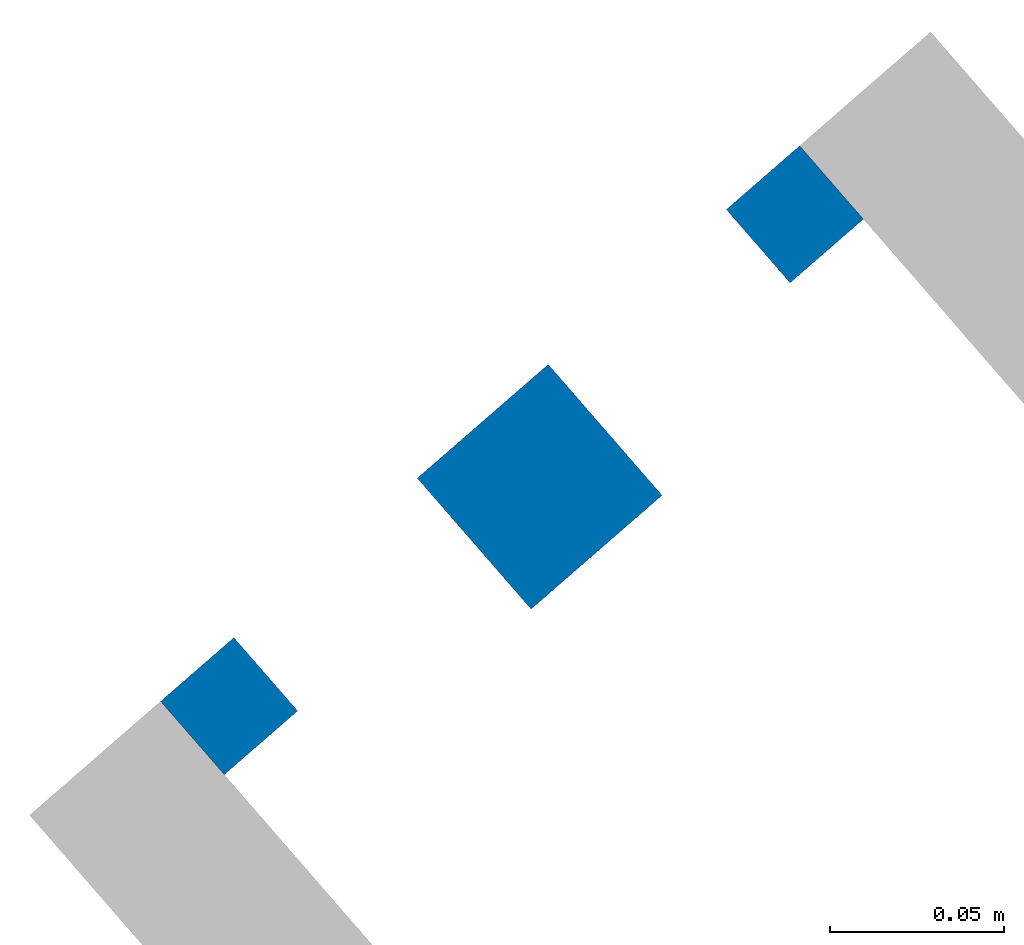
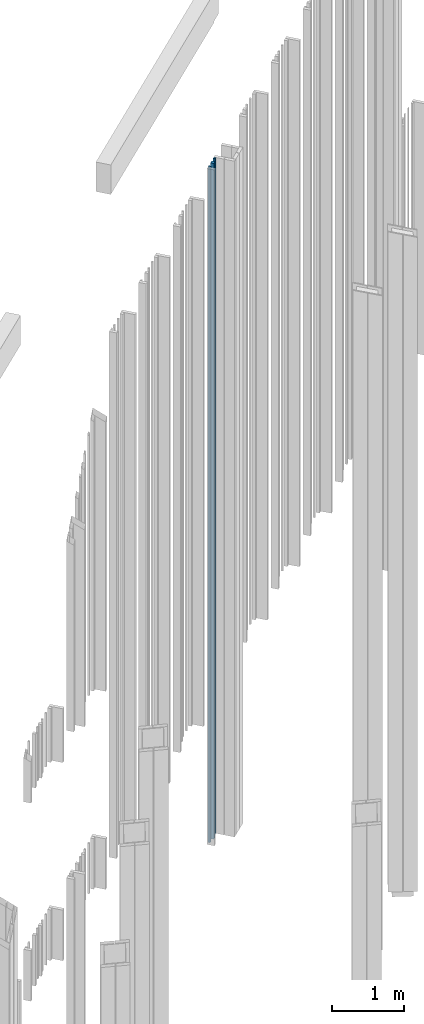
# One storey, part 245 of 390: 3 walls.
"""IFC2X3 building model written with IfcOpenShell, lengths in millimetres."""

from ifc_helpers import new_model, entity, si_unit, converted_unit, derived_unit, money_unit, direction, frame, origin_with_axes, place, context, subcontext, project, spatial, faceted_brep, material, type_object, element, save


model = new_model("IFC2X3")

# Units and contexts
model_context = context("Model", 3, precision=1e-05, world=origin_with_axes(), true_north=direction((0.0, 1.0)))
body_context = subcontext(model_context, "Body", "Model", "MODEL_VIEW")
ifc_project = project(units=[si_unit("LENGTHUNIT", "METRE", prefix="MILLI"), si_unit("AREAUNIT", "SQUARE_METRE"), si_unit("VOLUMEUNIT", "CUBIC_METRE"), converted_unit("PLANEANGLEUNIT", "DEGREE", entity("IfcPlaneAngleMeasure", 0.0174532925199), si_unit("PLANEANGLEUNIT", "RADIAN"), dimensions=[0, 0, 0, 0, 0, 0, 0]), si_unit("SOLIDANGLEUNIT", "STERADIAN"), money_unit("EUR"), converted_unit("TIMEUNIT", "Year", entity("IfcTimeMeasure", 31556926.0), si_unit("TIMEUNIT", "SECOND"), dimensions=[0, 0, 1, 0, 0, 0, 0]), si_unit("MASSUNIT", "GRAM", prefix="KILO"), si_unit("THERMODYNAMICTEMPERATUREUNIT", "DEGREE_CELSIUS"), si_unit("LUMINOUSINTENSITYUNIT", "LUMEN"), si_unit("ENERGYUNIT", "JOULE", prefix="MEGA"), derived_unit("THERMALCONDUCTANCEUNIT", [(si_unit("POWERUNIT", "WATT"), 1), (si_unit("LENGTHUNIT", "METRE"), -1), (si_unit("THERMODYNAMICTEMPERATUREUNIT", "KELVIN"), -1)]), derived_unit("SPECIFICHEATCAPACITYUNIT", [(si_unit("ENERGYUNIT", "JOULE"), 1), (si_unit("MASSUNIT", "GRAM", prefix="KILO"), -1), (si_unit("THERMODYNAMICTEMPERATUREUNIT", "KELVIN"), -1)]), derived_unit("MASSDENSITYUNIT", [(si_unit("MASSUNIT", "GRAM", prefix="KILO"), 1), (si_unit("VOLUMEUNIT", "CUBIC_METRE"), -1)])], contexts=[model_context])

# Site, building, storey
site_placement = place(None, origin_with_axes())
site = spatial("IfcSite", under=ifc_project, at=site_placement, Name="Site", CompositionType="ELEMENT")
building_placement = place(site_placement, origin_with_axes())
building = spatial("IfcBuilding", under=site, at=building_placement, Name="Building", CompositionType="ELEMENT")
storey_placement = place(building_placement, origin_with_axes())
storey = spatial("IfcBuildingStorey", under=building, at=storey_placement, Name="1 korrus", CompositionType="ELEMENT", Elevation=0.0)

# Walls
ifc_material = material(Name="Site specified")
wall_type = type_object("IfcWallType", Name="Puitfassaadi ribistik", PredefinedType="NOTDEFINED")
wall_placement = place(storey_placement, frame((157796.80773, 81801.288884, -1615.0), z_axis=(0.0, 0.0, 1.0), x_axis=(-0.754709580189, -0.65605902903, 0.0)))
element("IfcWall", 1, at=wall_placement, inside=storey, type_object=wall_type, material=ifc_material, Name="Site specified", context=body_context, shape_type="Brep", body=[
    faceted_brep([(-25.0, -25.0, 11480.0), (-25.0, -25.0, 0.0), (25.0, -25.0, 0.0), (25.0, -25.0, 11480.0), (-25.0, 25.0, 11480.0), (-25.0, 25.0, 0.0), (25.0, 25.0, 0.0), (25.0, 25.0, 11480.0)], [[[0, 1, 2, 3]], [[4, 5, 1, 0]], [[2, 1, 5, 6]], [[3, 2, 6, 7]], [[4, 0, 3, 7]], [[7, 6, 5, 4]]]),
])
for number, where, z_axis, x_axis, name in (
    (2, (157870.344982, 81879.7889841, -1615.0), (0.0, 0.0, 1.0), (-0.754709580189, -0.65605902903, 0.0), "Site specified"),
    (3, (157707.327737, 81738.0802552, -1615.0), (0.0, 0.0, 1.0), (-0.754709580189, -0.65605902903, 0.0), "Site specified"),
):
    element("IfcWall", number, at=place(storey_placement, frame(where, z_axis=z_axis, x_axis=x_axis)), inside=storey, type_object=wall_type, material=ifc_material, Name=name, context=body_context, shape_type="Brep", body=[
        faceted_brep([(-14.0, -14.0, 11480.0), (-14.0, -14.0, 0.0), (14.0, -14.0, 0.0), (14.0, -14.0, 11480.0), (-14.0, 14.0, 11480.0), (-14.0, 14.0, 0.0), (14.0, 14.0, 0.0), (14.0, 14.0, 11480.0)], [[[0, 1, 2, 3]], [[4, 5, 1, 0]], [[2, 1, 5, 6]], [[3, 2, 6, 7]], [[4, 0, 3, 7]], [[7, 6, 5, 4]]]),
    ])

save(model, "model.ifc")
